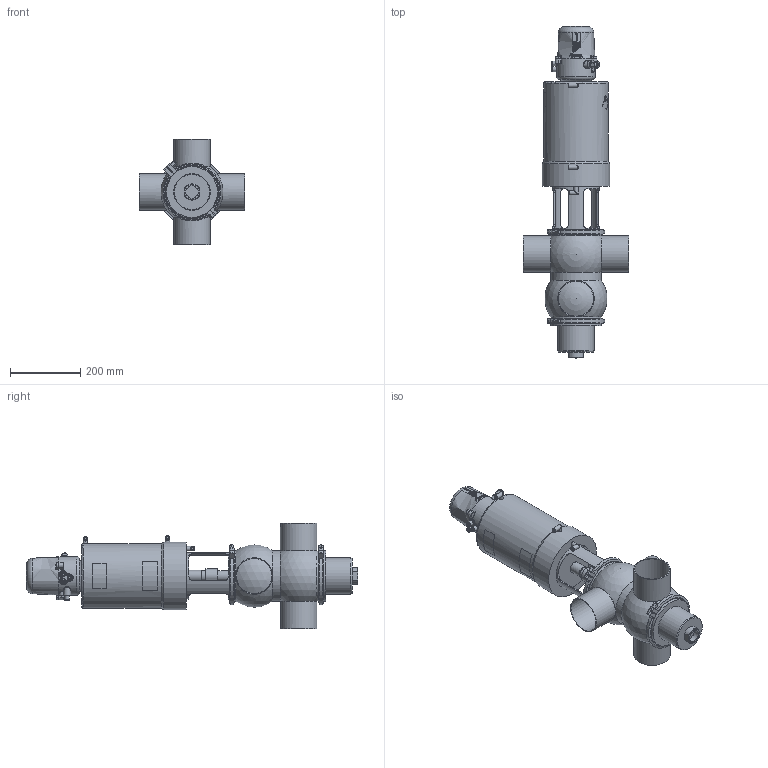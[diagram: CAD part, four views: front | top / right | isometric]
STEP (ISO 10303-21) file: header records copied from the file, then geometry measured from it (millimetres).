
FILE_DESCRIPTION (( 'STEP AP214' ), '1' );
FILE_NAME ('INNOVA P CB-90 W DIN 100 & C-TOP S_10.250.16.0015.STEP', '2024-08-09T11:39:29', ( '' ), ( '' ), 'SwSTEP 2.0', 'SolidWorks 2023', '' );
FILE_SCHEMA (( 'AUTOMOTIVE_DESIGN' ));
Length unit declared in the file: millimetre
Products named in the file (7): 10.251.15.0007_DIN 100; 10.426.15.0001_C-TOP S - 3 EV; 10.250.15.0002_Type P T3; 10.250.15.0001_DIN 100; 10.240.15.0001_DN 100; 10.250.15.0003_DN 100; INNOVA P CB-90 W DIN 100 & C-TOP S_10.250.16.0015
Assembly tree (7 placements, depth 2):
  INNOVA P CB-90 W DIN 100 & C-TOP S_10.250.16.0015
    10.250.15.0001_DIN 100
    10.250.15.0002_Type P T3
    10.426.15.0001_C-TOP S - 3 EV
    10.251.15.0007_DIN 100
    10.240.15.0001_DN 100  x2
    10.250.15.0003_DN 100
Bounding box: 300 x 946.5 x 300 mm (x, y, z)
Volume: 16539534.9 mm3; surface area: 934969 mm2
Topology: 7 solids, 7 shells, 1212 faces, 2930 edges, 1948 vertices
Faces by surface type: plane 414, cylinder 387, cone 204, bspline 162, torus 33, sphere 12
Full cylindrical faces by diameter (mm): 0.371 x17, 0.512 x16, 0.658 x16, 0.795 x16, 0.94 x15, 1.098 x15, 1.241 x13, 1.382 x13, 1.523 x11, 1.669 x10, 2.201 x1, 4.2 x2, 5 x1, 5.5 x2, 6 x4, 6.15 x3, 8 x5, 10 x1, 10.5 x3, 11 x4, 12.5 x9, 13 x6, 13.5 x2, 17 x3, 20 x2, 22 x2, 30.5 x2, 32 x1, 35 x1, 41 x1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
Entity records: 60342 total; most frequent: CARTESIAN_POINT 28709, ORIENTED_EDGE 4644, DIRECTION 3797, EDGE_CURVE 2322, VERTEX_POINT 1656, EDGE_LOOP 1636, AXIS2_PLACEMENT_3D 1568, FACE_OUTER_BOUND 1383
